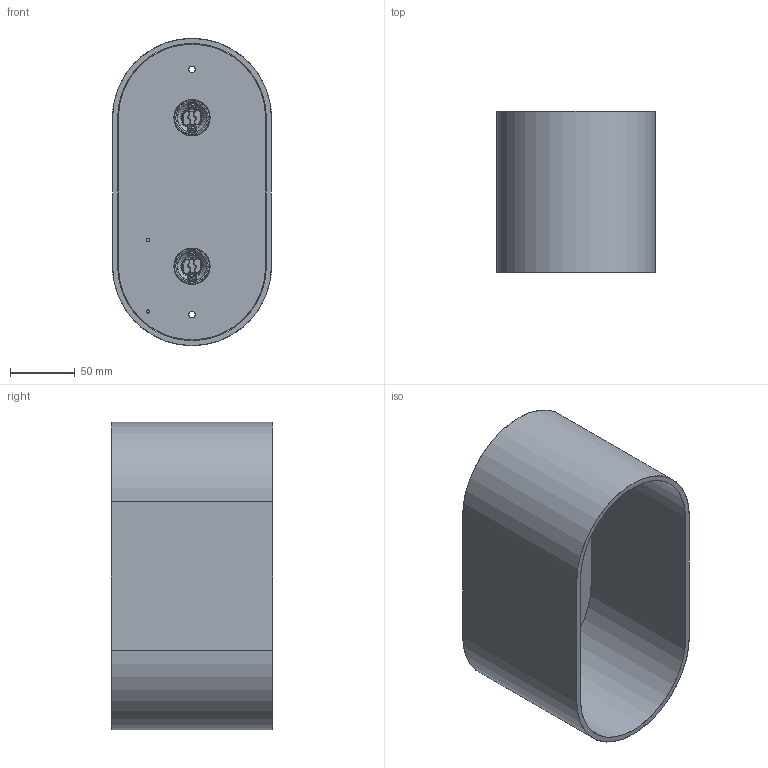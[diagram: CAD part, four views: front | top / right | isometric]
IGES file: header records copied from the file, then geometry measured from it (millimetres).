
Start section: SolidWorks IGES file using analytic representation for surfaces
Global section: file name: E:\3D lampy\Oval\Oval_9240,9241.IGS; native system: SolidWorks 2017; preprocessor: SolidWorks 2017; author: Asia; date: 180329.144311; units: millimetre
Bounding box: 123 x 125 x 238 mm (x, y, z)
Surface area: 218503.6 mm2 (no closed solid volume)
Topology: 0 solids, 0 shells, 673 faces, 8698 edges, 8678 vertices
Faces by surface type: bspline 368, revolution 305
